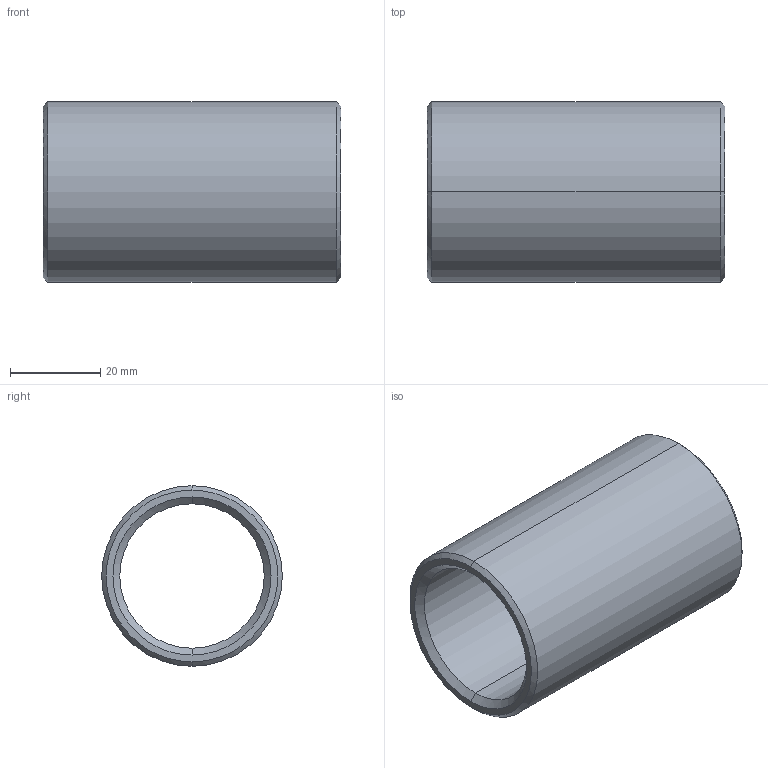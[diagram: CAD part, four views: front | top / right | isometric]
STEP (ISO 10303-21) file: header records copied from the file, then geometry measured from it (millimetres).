
FILE_DESCRIPTION(('CATIA V5 STEP Exchange'),'2;1');
FILE_NAME('C:\Users\Utente\Desktop\IO LAVORO\3D X SITO CF\X SITO\PLASTICA\352\352-32X66.stp','2021-04-14T15:00:44+00:00',('none'),('none'),'CATIA Version 5 Release 20 GA (IN-10)','CATIA V5 STEP AP203','none');
FILE_SCHEMA(('CONFIG_CONTROL_DESIGN'));
Length unit declared in the file: millimetre
Products named in the file (1): 352-32X66
Bounding box: 66 x 40 x 40 mm (x, y, z)
Volume: 29595.6 mm3; surface area: 15555.7 mm2
Topology: 1 solids, 1 shells, 14 faces, 44 edges, 32 vertices
Faces by surface type: cone 6, cylinder 4, plane 2, torus 2
Entity records: 634 total; most frequent: CARTESIAN_POINT 203, ORIENTED_EDGE 88, DIRECTION 64, EDGE_CURVE 44, AXIS2_PLACEMENT_3D 41, VERTEX_POINT 32, CIRCLE 26, EDGE_LOOP 16
